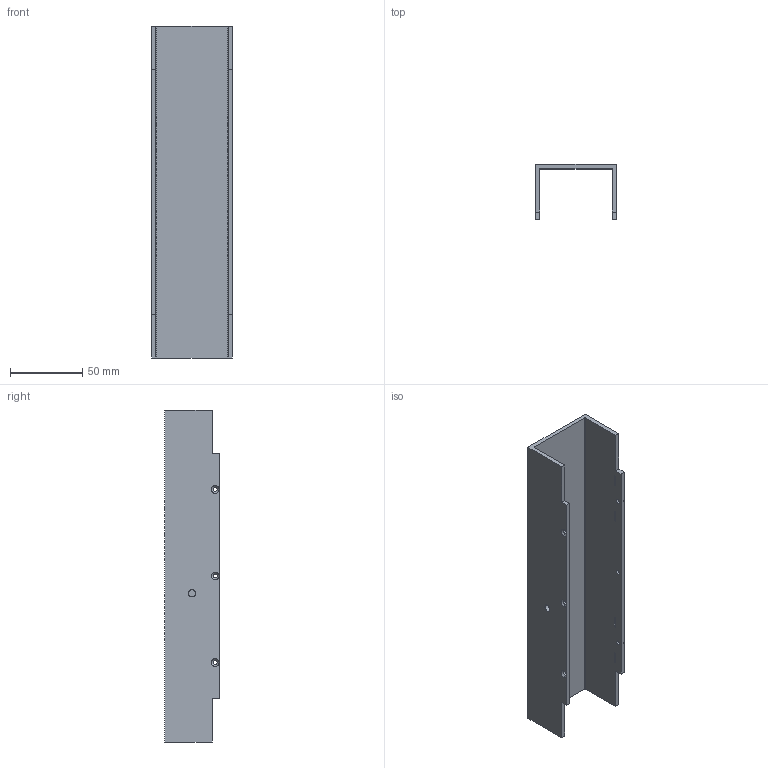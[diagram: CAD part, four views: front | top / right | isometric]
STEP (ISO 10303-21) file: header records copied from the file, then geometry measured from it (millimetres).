
FILE_DESCRIPTION (( 'STEP AP214' ), '1' );
FILE_NAME ('疏え炵苀_裔_V1.STEP', '2026-06-22T00:33:41', ( '' ), ( '' ), 'SwSTEP 2.0', 'SolidWorks 2022', '' );
FILE_SCHEMA (( 'AUTOMOTIVE_DESIGN' ));
Length unit declared in the file: millimetre
Products named in the file (1): 波片系统_盖_V1
Bounding box: 56.1 x 38.1 x 230 mm (x, y, z)
Volume: 84991.5 mm3; surface area: 59121.5 mm2
Topology: 1 solids, 1 shells, 78 faces, 216 edges, 140 vertices
Faces by surface type: plane 34, cylinder 32, cone 12
Entity records: 2578 total; most frequent: DIRECTION 450, CARTESIAN_POINT 435, ORIENTED_EDGE 432, EDGE_CURVE 216, AXIS2_PLACEMENT_3D 155, LINE 140, VECTOR 140, VERTEX_POINT 140
